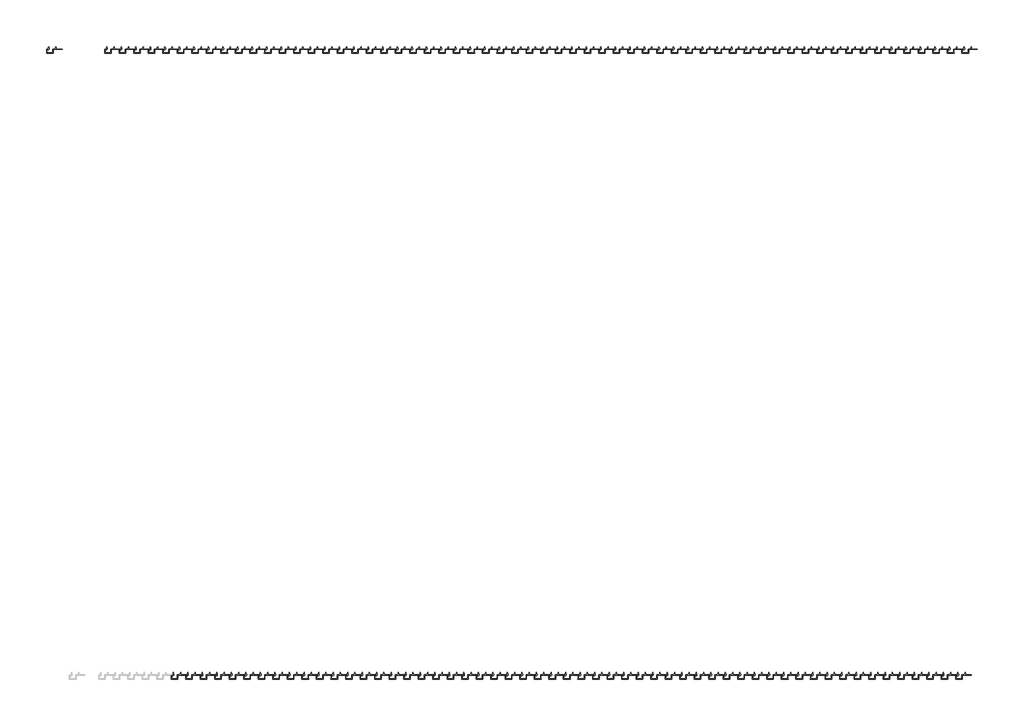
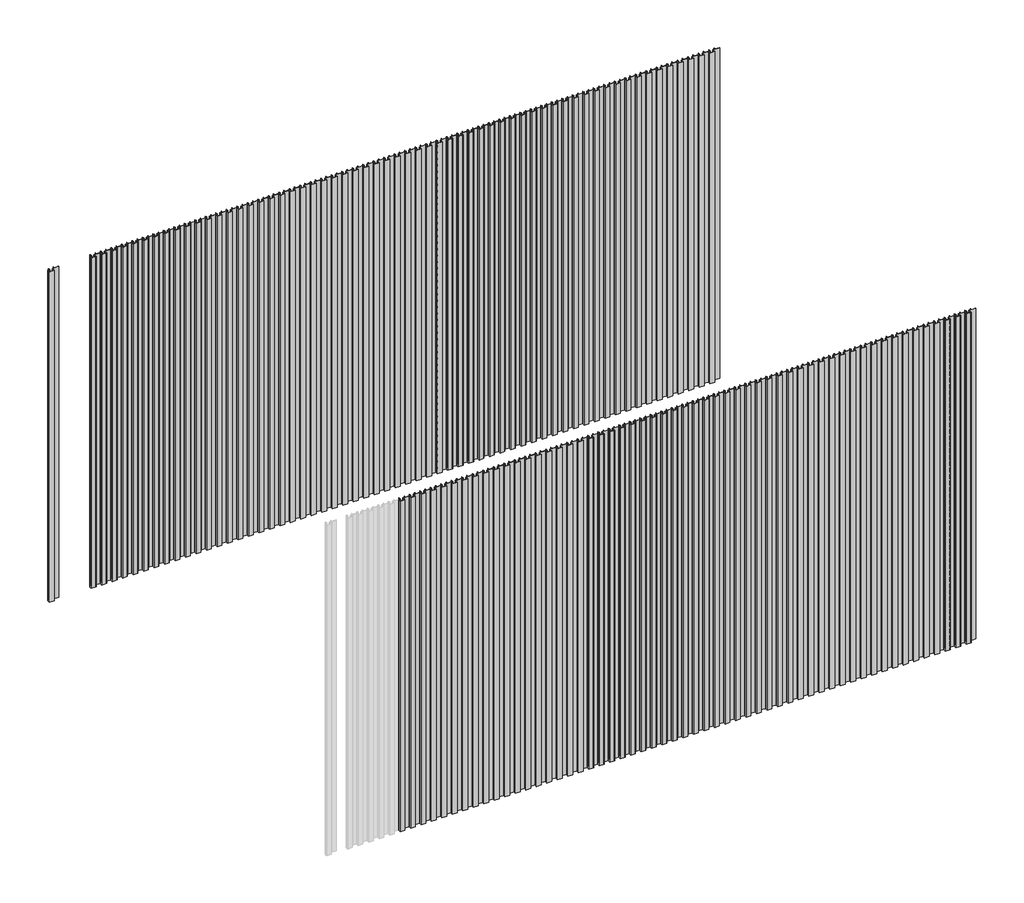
# One storey, part 2 of 2: 116 members.
"""IFC4 building model written with IfcOpenShell, lengths in millimetres."""

from ifc_helpers import new_model, si_unit, origin, place, context, project, spatial, transform, mapped, element, save
from components import rectangular_mullion_72b57f38, rectangular_mullion_807a867e

model = new_model("IFC4")

# Units and contexts
model_context = context("Model", 3, world=origin())
ifc_project = project(units=[si_unit("LENGTHUNIT", "METRE", prefix="MILLI")], contexts=[model_context])

# Site, building, storey
site = spatial("IfcSite", under=ifc_project)
building = spatial("IfcBuilding", under=site)
storey = spatial("IfcBuildingStorey", under=building, Name="REN - Top", Elevation=4000.0)

# Members
placement = place(None, origin())
rectangular_mullion_shape = rectangular_mullion_72b57f38(model_context)
element("IfcMember", 1, ObjectType="Rectangular Mullion : Renson_Linarte_LA-B16-01", at=placement, inside=storey, context=model_context, shape_type="MappedRepresentation", body=[
    mapped(rectangular_mullion_shape, transform((205796.9839545, 10018.9412859, 0.0), x_axis=(1.0, 0.0, 0.0), y_axis=(0.0, -1.0, 0.0), z_axis=(0.0, 0.0, -1.0))),
])
element("IfcMember", 2, ObjectType="Rectangular Mullion : Renson_Linarte_LA-B16-01", at=placement, inside=storey, context=model_context, shape_type="MappedRepresentation", body=[
    mapped(rectangular_mullion_shape, transform((205856.9839545, 10018.9412859, 0.0), x_axis=(1.0, 0.0, 0.0), y_axis=(0.0, -1.0, 0.0), z_axis=(0.0, 0.0, -1.0))),
])
element("IfcMember", 3, ObjectType="Rectangular Mullion : Renson_Linarte_LA-B16-01", at=placement, inside=storey, context=model_context, shape_type="MappedRepresentation", body=[
    mapped(rectangular_mullion_shape, transform((205916.9839545, 10018.9412859, 0.0), x_axis=(1.0, 0.0, 0.0), y_axis=(0.0, -1.0, 0.0), z_axis=(0.0, 0.0, -1.0))),
])
element("IfcMember", 4, ObjectType="Rectangular Mullion : Renson_Linarte_LA-B16-01", at=placement, inside=storey, context=model_context, shape_type="MappedRepresentation", body=[
    mapped(rectangular_mullion_shape, transform((205976.9839545, 10018.9412859, 0.0), x_axis=(1.0, 0.0, 0.0), y_axis=(0.0, -1.0, 0.0), z_axis=(0.0, 0.0, -1.0))),
])
element("IfcMember", 5, ObjectType="Rectangular Mullion : Renson_Linarte_LA-B16-01", at=placement, inside=storey, context=model_context, shape_type="MappedRepresentation", body=[
    mapped(rectangular_mullion_shape, transform((206036.9839545, 10018.9412859, 0.0), x_axis=(1.0, 0.0, 0.0), y_axis=(0.0, -1.0, 0.0), z_axis=(0.0, 0.0, -1.0))),
])
element("IfcMember", 6, ObjectType="Rectangular Mullion : Renson_Linarte_LA-B16-01", at=placement, inside=storey, context=model_context, shape_type="MappedRepresentation", body=[
    mapped(rectangular_mullion_shape, transform((206096.9839545, 10018.9412859, 0.0), x_axis=(1.0, 0.0, 0.0), y_axis=(0.0, -1.0, 0.0), z_axis=(0.0, 0.0, -1.0))),
])
element("IfcMember", 7, ObjectType="Rectangular Mullion : Renson_Linarte_LA-B16-01", at=placement, inside=storey, context=model_context, shape_type="MappedRepresentation", body=[
    mapped(rectangular_mullion_shape, transform((206156.9839545, 10018.9412859, 0.0), x_axis=(1.0, 0.0, 0.0), y_axis=(0.0, -1.0, 0.0), z_axis=(0.0, 0.0, -1.0))),
])
element("IfcMember", 8, ObjectType="Rectangular Mullion : Renson_Linarte_LA-B16-01", at=placement, inside=storey, context=model_context, shape_type="MappedRepresentation", body=[
    mapped(rectangular_mullion_shape, transform((206216.9839545, 10018.9412859, 0.0), x_axis=(1.0, 0.0, 0.0), y_axis=(0.0, -1.0, 0.0), z_axis=(0.0, 0.0, -1.0))),
])
element("IfcMember", 9, ObjectType="Rectangular Mullion : Renson_Linarte_LA-B16-01", at=placement, inside=storey, context=model_context, shape_type="MappedRepresentation", body=[
    mapped(rectangular_mullion_shape, transform((206276.9839545, 10018.9412859, 0.0), x_axis=(1.0, 0.0, 0.0), y_axis=(0.0, -1.0, 0.0), z_axis=(0.0, 0.0, -1.0))),
])
element("IfcMember", 10, ObjectType="Rectangular Mullion : Renson_Linarte_LA-B16-01", at=placement, inside=storey, context=model_context, shape_type="MappedRepresentation", body=[
    mapped(rectangular_mullion_shape, transform((206336.9839545, 10018.9412859, 0.0), x_axis=(1.0, 0.0, 0.0), y_axis=(0.0, -1.0, 0.0), z_axis=(0.0, 0.0, -1.0))),
])
element("IfcMember", 11, ObjectType="Rectangular Mullion : Renson_Linarte_LA-B16-01", at=placement, inside=storey, context=model_context, shape_type="MappedRepresentation", body=[
    mapped(rectangular_mullion_shape, transform((206396.9839545, 10018.9412859, 0.0), x_axis=(1.0, 0.0, 0.0), y_axis=(0.0, -1.0, 0.0), z_axis=(0.0, 0.0, -1.0))),
])
element("IfcMember", 12, ObjectType="Rectangular Mullion : Renson_Linarte_LA-B16-01", at=placement, inside=storey, context=model_context, shape_type="MappedRepresentation", body=[
    mapped(rectangular_mullion_shape, transform((206456.9839545, 10018.9412859, 0.0), x_axis=(1.0, 0.0, 0.0), y_axis=(0.0, -1.0, 0.0), z_axis=(0.0, 0.0, -1.0))),
])
element("IfcMember", 13, ObjectType="Rectangular Mullion : Renson_Linarte_LA-B16-01", at=placement, inside=storey, context=model_context, shape_type="MappedRepresentation", body=[
    mapped(rectangular_mullion_shape, transform((206516.9839545, 10018.9412859, 0.0), x_axis=(1.0, 0.0, 0.0), y_axis=(0.0, -1.0, 0.0), z_axis=(0.0, 0.0, -1.0))),
])
element("IfcMember", 14, ObjectType="Rectangular Mullion : Renson_Linarte_LA-B16-01", at=placement, inside=storey, context=model_context, shape_type="MappedRepresentation", body=[
    mapped(rectangular_mullion_shape, transform((206576.9839545, 10018.9412859, 0.0), x_axis=(1.0, 0.0, 0.0), y_axis=(0.0, -1.0, 0.0), z_axis=(0.0, 0.0, -1.0))),
])
element("IfcMember", 15, ObjectType="Rectangular Mullion : Renson_Linarte_LA-B16-01", at=placement, inside=storey, context=model_context, shape_type="MappedRepresentation", body=[
    mapped(rectangular_mullion_shape, transform((206636.9839545, 10018.9412859, 0.0), x_axis=(1.0, 0.0, 0.0), y_axis=(0.0, -1.0, 0.0), z_axis=(0.0, 0.0, -1.0))),
])
element("IfcMember", 16, ObjectType="Rectangular Mullion : Renson_Linarte_LA-B16-01", at=placement, inside=storey, context=model_context, shape_type="MappedRepresentation", body=[
    mapped(rectangular_mullion_shape, transform((206696.9839545, 10018.9412859, 0.0), x_axis=(1.0, 0.0, 0.0), y_axis=(0.0, -1.0, 0.0), z_axis=(0.0, 0.0, -1.0))),
])
element("IfcMember", 17, ObjectType="Rectangular Mullion : Renson_Linarte_LA-B16-01", at=placement, inside=storey, context=model_context, shape_type="MappedRepresentation", body=[
    mapped(rectangular_mullion_shape, transform((206756.9839545, 10018.9412859, 0.0), x_axis=(1.0, 0.0, 0.0), y_axis=(0.0, -1.0, 0.0), z_axis=(0.0, 0.0, -1.0))),
])
element("IfcMember", 18, ObjectType="Rectangular Mullion : Renson_Linarte_LA-B16-01", at=placement, inside=storey, context=model_context, shape_type="MappedRepresentation", body=[
    mapped(rectangular_mullion_shape, transform((206816.9839545, 10018.9412859, 0.0), x_axis=(1.0, 0.0, 0.0), y_axis=(0.0, -1.0, 0.0), z_axis=(0.0, 0.0, -1.0))),
])
element("IfcMember", 19, ObjectType="Rectangular Mullion : Renson_Linarte_LA-B16-01", at=placement, inside=storey, context=model_context, shape_type="MappedRepresentation", body=[
    mapped(rectangular_mullion_shape, transform((206876.9839545, 10018.9412859, 0.0), x_axis=(1.0, 0.0, 0.0), y_axis=(0.0, -1.0, 0.0), z_axis=(0.0, 0.0, -1.0))),
])
element("IfcMember", 20, ObjectType="Rectangular Mullion : Renson_Linarte_LA-B16-01", at=placement, inside=storey, context=model_context, shape_type="MappedRepresentation", body=[
    mapped(rectangular_mullion_shape, transform((206936.9839545, 10018.9412859, 0.0), x_axis=(1.0, 0.0, 0.0), y_axis=(0.0, -1.0, 0.0), z_axis=(0.0, 0.0, -1.0))),
])
element("IfcMember", 21, ObjectType="Rectangular Mullion : Renson_Linarte_LA-B16-01", at=placement, inside=storey, context=model_context, shape_type="MappedRepresentation", body=[
    mapped(rectangular_mullion_shape, transform((206996.9839545, 10018.9412859, 0.0), x_axis=(1.0, 0.0, 0.0), y_axis=(0.0, -1.0, 0.0), z_axis=(0.0, 0.0, -1.0))),
])
element("IfcMember", 22, ObjectType="Rectangular Mullion : Renson_Linarte_LA-B16-01", at=placement, inside=storey, context=model_context, shape_type="MappedRepresentation", body=[
    mapped(rectangular_mullion_shape, transform((207056.9839545, 10018.9412859, 0.0), x_axis=(1.0, 0.0, 0.0), y_axis=(0.0, -1.0, 0.0), z_axis=(0.0, 0.0, -1.0))),
])
element("IfcMember", 23, ObjectType="Rectangular Mullion : Renson_Linarte_LA-B16-01", at=placement, inside=storey, context=model_context, shape_type="MappedRepresentation", body=[
    mapped(rectangular_mullion_shape, transform((207116.9839545, 10018.9412859, 0.0), x_axis=(1.0, 0.0, 0.0), y_axis=(0.0, -1.0, 0.0), z_axis=(0.0, 0.0, -1.0))),
])
element("IfcMember", 24, ObjectType="Rectangular Mullion : Renson_Linarte_LA-B16-01", at=placement, inside=storey, context=model_context, shape_type="MappedRepresentation", body=[
    mapped(rectangular_mullion_shape, transform((207176.9839545, 10018.9412859, 0.0), x_axis=(1.0, 0.0, 0.0), y_axis=(0.0, -1.0, 0.0), z_axis=(0.0, 0.0, -1.0))),
])
element("IfcMember", 25, ObjectType="Rectangular Mullion : Renson_Linarte_LA-B16-01", at=placement, inside=storey, context=model_context, shape_type="MappedRepresentation", body=[
    mapped(rectangular_mullion_shape, transform((207236.9839545, 10018.9412859, 0.0), x_axis=(1.0, 0.0, 0.0), y_axis=(0.0, -1.0, 0.0), z_axis=(0.0, 0.0, -1.0))),
])
element("IfcMember", 26, ObjectType="Rectangular Mullion : Renson_Linarte_LA-B16-01", at=placement, inside=storey, context=model_context, shape_type="MappedRepresentation", body=[
    mapped(rectangular_mullion_shape, transform((207296.9839545, 10018.9412859, 0.0), x_axis=(1.0, 0.0, 0.0), y_axis=(0.0, -1.0, 0.0), z_axis=(0.0, 0.0, -1.0))),
])
element("IfcMember", 27, ObjectType="Rectangular Mullion : Renson_Linarte_LA-B16-01", at=placement, inside=storey, context=model_context, shape_type="MappedRepresentation", body=[
    mapped(rectangular_mullion_shape, transform((207356.9839545, 10018.9412859, 0.0), x_axis=(1.0, 0.0, 0.0), y_axis=(0.0, -1.0, 0.0), z_axis=(0.0, 0.0, -1.0))),
])
element("IfcMember", 28, ObjectType="Rectangular Mullion : Renson_Linarte_LA-B16-01", at=placement, inside=storey, context=model_context, shape_type="MappedRepresentation", body=[
    mapped(rectangular_mullion_shape, transform((207416.9839545, 10018.9412859, 0.0), x_axis=(1.0, 0.0, 0.0), y_axis=(0.0, -1.0, 0.0), z_axis=(0.0, 0.0, -1.0))),
])
element("IfcMember", 29, ObjectType="Rectangular Mullion : Renson_Linarte_LA-B16-01", at=placement, inside=storey, context=model_context, shape_type="MappedRepresentation", body=[
    mapped(rectangular_mullion_shape, transform((207476.9839545, 10018.9412859, 0.0), x_axis=(1.0, 0.0, 0.0), y_axis=(0.0, -1.0, 0.0), z_axis=(0.0, 0.0, -1.0))),
])
element("IfcMember", 30, ObjectType="Rectangular Mullion : Renson_Linarte_LA-B16-01", at=placement, inside=storey, context=model_context, shape_type="MappedRepresentation", body=[
    mapped(rectangular_mullion_shape, transform((207536.9839545, 10018.9412859, 0.0), x_axis=(1.0, 0.0, 0.0), y_axis=(0.0, -1.0, 0.0), z_axis=(0.0, 0.0, -1.0))),
])
element("IfcMember", 31, ObjectType="Rectangular Mullion : Renson_Linarte_LA-B16-01", at=placement, inside=storey, context=model_context, shape_type="MappedRepresentation", body=[
    mapped(rectangular_mullion_shape, transform((207596.9839545, 10018.9412859, 0.0), x_axis=(1.0, 0.0, 0.0), y_axis=(0.0, -1.0, 0.0), z_axis=(0.0, 0.0, -1.0))),
])
element("IfcMember", 32, ObjectType="Rectangular Mullion : Renson_Linarte_LA-B16-01", at=placement, inside=storey, context=model_context, shape_type="MappedRepresentation", body=[
    mapped(rectangular_mullion_shape, transform((207656.9839545, 10018.9412859, 0.0), x_axis=(1.0, 0.0, 0.0), y_axis=(0.0, -1.0, 0.0), z_axis=(0.0, 0.0, -1.0))),
])
element("IfcMember", 33, ObjectType="Rectangular Mullion : Renson_Linarte_LA-B16-01", at=placement, inside=storey, context=model_context, shape_type="MappedRepresentation", body=[
    mapped(rectangular_mullion_shape, transform((207716.9839545, 10018.9412859, 0.0), x_axis=(1.0, 0.0, 0.0), y_axis=(0.0, -1.0, 0.0), z_axis=(0.0, 0.0, -1.0))),
])
element("IfcMember", 34, ObjectType="Rectangular Mullion : Renson_Linarte_LA-B16-01", at=placement, inside=storey, context=model_context, shape_type="MappedRepresentation", body=[
    mapped(rectangular_mullion_shape, transform((207776.9839545, 10018.9412859, 0.0), x_axis=(1.0, 0.0, 0.0), y_axis=(0.0, -1.0, 0.0), z_axis=(0.0, 0.0, -1.0))),
])
element("IfcMember", 35, ObjectType="Rectangular Mullion : Renson_Linarte_LA-B16-01", at=placement, inside=storey, context=model_context, shape_type="MappedRepresentation", body=[
    mapped(rectangular_mullion_shape, transform((207836.9839545, 10018.9412859, 0.0), x_axis=(1.0, 0.0, 0.0), y_axis=(0.0, -1.0, 0.0), z_axis=(0.0, 0.0, -1.0))),
])
element("IfcMember", 36, ObjectType="Rectangular Mullion : Renson_Linarte_LA-B16-01", at=placement, inside=storey, context=model_context, shape_type="MappedRepresentation", body=[
    mapped(rectangular_mullion_shape, transform((207896.9839545, 10018.9412859, 0.0), x_axis=(1.0, 0.0, 0.0), y_axis=(0.0, -1.0, 0.0), z_axis=(0.0, 0.0, -1.0))),
])
element("IfcMember", 37, ObjectType="Rectangular Mullion : Renson_Linarte_LA-B16-01", at=placement, inside=storey, context=model_context, shape_type="MappedRepresentation", body=[
    mapped(rectangular_mullion_shape, transform((207956.9839545, 10018.9412859, 0.0), x_axis=(1.0, 0.0, 0.0), y_axis=(0.0, -1.0, 0.0), z_axis=(0.0, 0.0, -1.0))),
])
element("IfcMember", 38, ObjectType="Rectangular Mullion : Renson_Linarte_LA-B16-01", at=placement, inside=storey, context=model_context, shape_type="MappedRepresentation", body=[
    mapped(rectangular_mullion_shape, transform((208016.9839545, 10018.9412859, 0.0), x_axis=(1.0, 0.0, 0.0), y_axis=(0.0, -1.0, 0.0), z_axis=(0.0, 0.0, -1.0))),
])
element("IfcMember", 39, ObjectType="Rectangular Mullion : Renson_Linarte_LA-B16-01", at=placement, inside=storey, context=model_context, shape_type="MappedRepresentation", body=[
    mapped(rectangular_mullion_shape, transform((208076.9839545, 10018.9412859, 0.0), x_axis=(1.0, 0.0, 0.0), y_axis=(0.0, -1.0, 0.0), z_axis=(0.0, 0.0, -1.0))),
])
element("IfcMember", 40, ObjectType="Rectangular Mullion : Renson_Linarte_LA-B16-01", at=placement, inside=storey, context=model_context, shape_type="MappedRepresentation", body=[
    mapped(rectangular_mullion_shape, transform((208136.9839545, 10018.9412859, 0.0), x_axis=(1.0, 0.0, 0.0), y_axis=(0.0, -1.0, 0.0), z_axis=(0.0, 0.0, -1.0))),
])
element("IfcMember", 41, ObjectType="Rectangular Mullion : Renson_Linarte_LA-B16-01", at=placement, inside=storey, context=model_context, shape_type="MappedRepresentation", body=[
    mapped(rectangular_mullion_shape, transform((208196.9839545, 10018.9412859, 0.0), x_axis=(1.0, 0.0, 0.0), y_axis=(0.0, -1.0, 0.0), z_axis=(0.0, 0.0, -1.0))),
])
element("IfcMember", 42, ObjectType="Rectangular Mullion : Renson_Linarte_LA-B16-01", at=placement, inside=storey, context=model_context, shape_type="MappedRepresentation", body=[
    mapped(rectangular_mullion_shape, transform((208256.9839545, 10018.9412859, 0.0), x_axis=(1.0, 0.0, 0.0), y_axis=(0.0, -1.0, 0.0), z_axis=(0.0, 0.0, -1.0))),
])
element("IfcMember", 43, ObjectType="Rectangular Mullion : Renson_Linarte_LA-B16-01", at=placement, inside=storey, context=model_context, shape_type="MappedRepresentation", body=[
    mapped(rectangular_mullion_shape, transform((208316.9839545, 10018.9412859, 0.0), x_axis=(1.0, 0.0, 0.0), y_axis=(0.0, -1.0, 0.0), z_axis=(0.0, 0.0, -1.0))),
])
element("IfcMember", 44, ObjectType="Rectangular Mullion : Renson_Linarte_LA-B16-01", at=placement, inside=storey, context=model_context, shape_type="MappedRepresentation", body=[
    mapped(rectangular_mullion_shape, transform((208376.9839545, 10018.9412859, 0.0), x_axis=(1.0, 0.0, 0.0), y_axis=(0.0, -1.0, 0.0), z_axis=(0.0, 0.0, -1.0))),
])
element("IfcMember", 45, ObjectType="Rectangular Mullion : Renson_Linarte_LA-B16-01", at=placement, inside=storey, context=model_context, shape_type="MappedRepresentation", body=[
    mapped(rectangular_mullion_shape, transform((208436.9839545, 10018.9412859, 0.0), x_axis=(1.0, 0.0, 0.0), y_axis=(0.0, -1.0, 0.0), z_axis=(0.0, 0.0, -1.0))),
])
element("IfcMember", 46, ObjectType="Rectangular Mullion : Renson_Linarte_LA-B16-01", at=placement, inside=storey, context=model_context, shape_type="MappedRepresentation", body=[
    mapped(rectangular_mullion_shape, transform((208496.9839545, 10018.9412859, 0.0), x_axis=(1.0, 0.0, 0.0), y_axis=(0.0, -1.0, 0.0), z_axis=(0.0, 0.0, -1.0))),
])
element("IfcMember", 47, ObjectType="Rectangular Mullion : Renson_Linarte_LA-B16-01", at=placement, inside=storey, context=model_context, shape_type="MappedRepresentation", body=[
    mapped(rectangular_mullion_shape, transform((208556.9839545, 10018.9412859, 0.0), x_axis=(1.0, 0.0, 0.0), y_axis=(0.0, -1.0, 0.0), z_axis=(0.0, 0.0, -1.0))),
])
element("IfcMember", 48, ObjectType="Rectangular Mullion : Renson_Linarte_LA-B16-01", at=placement, inside=storey, context=model_context, shape_type="MappedRepresentation", body=[
    mapped(rectangular_mullion_shape, transform((208616.9839545, 10018.9412859, 0.0), x_axis=(1.0, 0.0, 0.0), y_axis=(0.0, -1.0, 0.0), z_axis=(0.0, 0.0, -1.0))),
])
element("IfcMember", 49, ObjectType="Rectangular Mullion : Renson_Linarte_LA-B16-01", at=placement, inside=storey, context=model_context, shape_type="MappedRepresentation", body=[
    mapped(rectangular_mullion_shape, transform((208676.9839545, 10018.9412859, 0.0), x_axis=(1.0, 0.0, 0.0), y_axis=(0.0, -1.0, 0.0), z_axis=(0.0, 0.0, -1.0))),
])
element("IfcMember", 50, ObjectType="Rectangular Mullion : Renson_Linarte_LA-B16-01", at=placement, inside=storey, context=model_context, shape_type="MappedRepresentation", body=[
    mapped(rectangular_mullion_shape, transform((208736.9839545, 10018.9412859, 0.0), x_axis=(1.0, 0.0, 0.0), y_axis=(0.0, -1.0, 0.0), z_axis=(0.0, 0.0, -1.0))),
])
element("IfcMember", 51, ObjectType="Rectangular Mullion : Renson_Linarte_LA-B16-01", at=placement, inside=storey, context=model_context, shape_type="MappedRepresentation", body=[
    mapped(rectangular_mullion_shape, transform((208796.9839545, 10018.9412859, 0.0), x_axis=(1.0, 0.0, 0.0), y_axis=(0.0, -1.0, 0.0), z_axis=(0.0, 0.0, -1.0))),
])
element("IfcMember", 52, ObjectType="Rectangular Mullion : Renson_Linarte_LA-B16-01", at=placement, inside=storey, context=model_context, shape_type="MappedRepresentation", body=[
    mapped(rectangular_mullion_shape, transform((208856.9839545, 10018.9412859, 0.0), x_axis=(1.0, 0.0, 0.0), y_axis=(0.0, -1.0, 0.0), z_axis=(0.0, 0.0, -1.0))),
])
element("IfcMember", 53, ObjectType="Rectangular Mullion : Renson_Linarte_LA-B16-01", at=placement, inside=storey, context=model_context, shape_type="MappedRepresentation", body=[
    mapped(rectangular_mullion_shape, transform((208916.9839545, 10018.9412859, 0.0), x_axis=(1.0, 0.0, 0.0), y_axis=(0.0, -1.0, 0.0), z_axis=(0.0, 0.0, -1.0))),
])
element("IfcMember", 54, ObjectType="Rectangular Mullion : Renson_Linarte_LA-B16-01", at=placement, inside=storey, context=model_context, shape_type="MappedRepresentation", body=[
    mapped(rectangular_mullion_shape, transform((208976.9839545, 10018.9412859, 0.0), x_axis=(1.0, 0.0, 0.0), y_axis=(0.0, -1.0, 0.0), z_axis=(0.0, 0.0, -1.0))),
])
element("IfcMember", 55, ObjectType="Rectangular Mullion : Renson_Linarte_LA-B16-01", at=placement, inside=storey, context=model_context, shape_type="MappedRepresentation", body=[
    mapped(rectangular_mullion_shape, transform((209036.9839545, 10018.9412859, 0.0), x_axis=(1.0, 0.0, 0.0), y_axis=(0.0, -1.0, 0.0), z_axis=(0.0, 0.0, -1.0))),
])
element("IfcMember", 56, ObjectType="Rectangular Mullion : Renson_Linarte_LA-B16-01", at=placement, inside=storey, context=model_context, shape_type="MappedRepresentation", body=[
    mapped(rectangular_mullion_shape, transform((205522.4238388, 12603.7325968, 0.0), x_axis=(1.0, 0.0, 0.0), y_axis=(0.0, -1.0, 0.0), z_axis=(0.0, 0.0, -1.0))),
])
element("IfcMember", 57, ObjectType="Rectangular Mullion : Renson_Linarte_LA-B16-01", at=placement, inside=storey, context=model_context, shape_type="MappedRepresentation", body=[
    mapped(rectangular_mullion_shape, transform((205582.4238388, 12603.7325968, 0.0), x_axis=(1.0, 0.0, 0.0), y_axis=(0.0, -1.0, 0.0), z_axis=(0.0, 0.0, -1.0))),
])
element("IfcMember", 58, ObjectType="Rectangular Mullion : Renson_Linarte_LA-B16-01", at=placement, inside=storey, context=model_context, shape_type="MappedRepresentation", body=[
    mapped(rectangular_mullion_shape, transform((205642.4238388, 12603.7325968, 0.0), x_axis=(1.0, 0.0, 0.0), y_axis=(0.0, -1.0, 0.0), z_axis=(0.0, 0.0, -1.0))),
])
element("IfcMember", 59, ObjectType="Rectangular Mullion : Renson_Linarte_LA-B16-01", at=placement, inside=storey, context=model_context, shape_type="MappedRepresentation", body=[
    mapped(rectangular_mullion_shape, transform((205702.4238388, 12603.7325968, 0.0), x_axis=(1.0, 0.0, 0.0), y_axis=(0.0, -1.0, 0.0), z_axis=(0.0, 0.0, -1.0))),
])
element("IfcMember", 60, ObjectType="Rectangular Mullion : Renson_Linarte_LA-B16-01", at=placement, inside=storey, context=model_context, shape_type="MappedRepresentation", body=[
    mapped(rectangular_mullion_shape, transform((205762.4238388, 12603.7325968, 0.0), x_axis=(1.0, 0.0, 0.0), y_axis=(0.0, -1.0, 0.0), z_axis=(0.0, 0.0, -1.0))),
])
element("IfcMember", 61, ObjectType="Rectangular Mullion : Renson_Linarte_LA-B16-01", at=placement, inside=storey, context=model_context, shape_type="MappedRepresentation", body=[
    mapped(rectangular_mullion_shape, transform((205822.4238388, 12603.7325968, 0.0), x_axis=(1.0, 0.0, 0.0), y_axis=(0.0, -1.0, 0.0), z_axis=(0.0, 0.0, -1.0))),
])
element("IfcMember", 62, ObjectType="Rectangular Mullion : Renson_Linarte_LA-B16-01", at=placement, inside=storey, context=model_context, shape_type="MappedRepresentation", body=[
    mapped(rectangular_mullion_shape, transform((205882.4238388, 12603.7325968, 0.0), x_axis=(1.0, 0.0, 0.0), y_axis=(0.0, -1.0, 0.0), z_axis=(0.0, 0.0, -1.0))),
])
element("IfcMember", 63, ObjectType="Rectangular Mullion : Renson_Linarte_LA-B16-01", at=placement, inside=storey, context=model_context, shape_type="MappedRepresentation", body=[
    mapped(rectangular_mullion_shape, transform((205942.4238388, 12603.7325968, 0.0), x_axis=(1.0, 0.0, 0.0), y_axis=(0.0, -1.0, 0.0), z_axis=(0.0, 0.0, -1.0))),
])
element("IfcMember", 64, ObjectType="Rectangular Mullion : Renson_Linarte_LA-B16-01", at=placement, inside=storey, context=model_context, shape_type="MappedRepresentation", body=[
    mapped(rectangular_mullion_shape, transform((206002.4238388, 12603.7325968, 0.0), x_axis=(1.0, 0.0, 0.0), y_axis=(0.0, -1.0, 0.0), z_axis=(0.0, 0.0, -1.0))),
])
element("IfcMember", 65, ObjectType="Rectangular Mullion : Renson_Linarte_LA-B16-01", at=placement, inside=storey, context=model_context, shape_type="MappedRepresentation", body=[
    mapped(rectangular_mullion_shape, transform((206062.4238388, 12603.7325968, 0.0), x_axis=(1.0, 0.0, 0.0), y_axis=(0.0, -1.0, 0.0), z_axis=(0.0, 0.0, -1.0))),
])
element("IfcMember", 66, ObjectType="Rectangular Mullion : Renson_Linarte_LA-B16-01", at=placement, inside=storey, context=model_context, shape_type="MappedRepresentation", body=[
    mapped(rectangular_mullion_shape, transform((206122.4238388, 12603.7325968, 0.0), x_axis=(1.0, 0.0, 0.0), y_axis=(0.0, -1.0, 0.0), z_axis=(0.0, 0.0, -1.0))),
])
element("IfcMember", 67, ObjectType="Rectangular Mullion : Renson_Linarte_LA-B16-01", at=placement, inside=storey, context=model_context, shape_type="MappedRepresentation", body=[
    mapped(rectangular_mullion_shape, transform((206182.4238388, 12603.7325968, 0.0), x_axis=(1.0, 0.0, 0.0), y_axis=(0.0, -1.0, 0.0), z_axis=(0.0, 0.0, -1.0))),
])
element("IfcMember", 68, ObjectType="Rectangular Mullion : Renson_Linarte_LA-B16-01", at=placement, inside=storey, context=model_context, shape_type="MappedRepresentation", body=[
    mapped(rectangular_mullion_shape, transform((206242.4238388, 12603.7325968, 0.0), x_axis=(1.0, 0.0, 0.0), y_axis=(0.0, -1.0, 0.0), z_axis=(0.0, 0.0, -1.0))),
])
element("IfcMember", 69, ObjectType="Rectangular Mullion : Renson_Linarte_LA-B16-01", at=placement, inside=storey, context=model_context, shape_type="MappedRepresentation", body=[
    mapped(rectangular_mullion_shape, transform((206302.4238388, 12603.7325968, 0.0), x_axis=(1.0, 0.0, 0.0), y_axis=(0.0, -1.0, 0.0), z_axis=(0.0, 0.0, -1.0))),
])
element("IfcMember", 70, ObjectType="Rectangular Mullion : Renson_Linarte_LA-B16-01", at=placement, inside=storey, context=model_context, shape_type="MappedRepresentation", body=[
    mapped(rectangular_mullion_shape, transform((206362.4238388, 12603.7325968, 0.0), x_axis=(1.0, 0.0, 0.0), y_axis=(0.0, -1.0, 0.0), z_axis=(0.0, 0.0, -1.0))),
])
element("IfcMember", 71, ObjectType="Rectangular Mullion : Renson_Linarte_LA-B16-01", at=placement, inside=storey, context=model_context, shape_type="MappedRepresentation", body=[
    mapped(rectangular_mullion_shape, transform((206422.4238388, 12603.7325968, 0.0), x_axis=(1.0, 0.0, 0.0), y_axis=(0.0, -1.0, 0.0), z_axis=(0.0, 0.0, -1.0))),
])
element("IfcMember", 72, ObjectType="Rectangular Mullion : Renson_Linarte_LA-B16-01", at=placement, inside=storey, context=model_context, shape_type="MappedRepresentation", body=[
    mapped(rectangular_mullion_shape, transform((206482.4238388, 12603.7325968, 0.0), x_axis=(1.0, 0.0, 0.0), y_axis=(0.0, -1.0, 0.0), z_axis=(0.0, 0.0, -1.0))),
])
element("IfcMember", 73, ObjectType="Rectangular Mullion : Renson_Linarte_LA-B16-01", at=placement, inside=storey, context=model_context, shape_type="MappedRepresentation", body=[
    mapped(rectangular_mullion_shape, transform((206542.4238388, 12603.7325968, 0.0), x_axis=(1.0, 0.0, 0.0), y_axis=(0.0, -1.0, 0.0), z_axis=(0.0, 0.0, -1.0))),
])
element("IfcMember", 74, ObjectType="Rectangular Mullion : Renson_Linarte_LA-B16-01", at=placement, inside=storey, context=model_context, shape_type="MappedRepresentation", body=[
    mapped(rectangular_mullion_shape, transform((206602.4238388, 12603.7325968, 0.0), x_axis=(1.0, 0.0, 0.0), y_axis=(0.0, -1.0, 0.0), z_axis=(0.0, 0.0, -1.0))),
])
element("IfcMember", 75, ObjectType="Rectangular Mullion : Renson_Linarte_LA-B16-01", at=placement, inside=storey, context=model_context, shape_type="MappedRepresentation", body=[
    mapped(rectangular_mullion_shape, transform((206662.4238388, 12603.7325968, 0.0), x_axis=(1.0, 0.0, 0.0), y_axis=(0.0, -1.0, 0.0), z_axis=(0.0, 0.0, -1.0))),
])
element("IfcMember", 76, ObjectType="Rectangular Mullion : Renson_Linarte_LA-B16-01", at=placement, inside=storey, context=model_context, shape_type="MappedRepresentation", body=[
    mapped(rectangular_mullion_shape, transform((206722.4238388, 12603.7325968, 0.0), x_axis=(1.0, 0.0, 0.0), y_axis=(0.0, -1.0, 0.0), z_axis=(0.0, 0.0, -1.0))),
])
element("IfcMember", 77, ObjectType="Rectangular Mullion : Renson_Linarte_LA-B16-01", at=placement, inside=storey, context=model_context, shape_type="MappedRepresentation", body=[
    mapped(rectangular_mullion_shape, transform((206782.4238388, 12603.7325968, 0.0), x_axis=(1.0, 0.0, 0.0), y_axis=(0.0, -1.0, 0.0), z_axis=(0.0, 0.0, -1.0))),
])
element("IfcMember", 78, ObjectType="Rectangular Mullion : Renson_Linarte_LA-B16-01", at=placement, inside=storey, context=model_context, shape_type="MappedRepresentation", body=[
    mapped(rectangular_mullion_shape, transform((206842.4238388, 12603.7325968, 0.0), x_axis=(1.0, 0.0, 0.0), y_axis=(0.0, -1.0, 0.0), z_axis=(0.0, 0.0, -1.0))),
])
element("IfcMember", 79, ObjectType="Rectangular Mullion : Renson_Linarte_LA-B16-01", at=placement, inside=storey, context=model_context, shape_type="MappedRepresentation", body=[
    mapped(rectangular_mullion_shape, transform((206902.4238388, 12603.7325968, 0.0), x_axis=(1.0, 0.0, 0.0), y_axis=(0.0, -1.0, 0.0), z_axis=(0.0, 0.0, -1.0))),
])
element("IfcMember", 80, ObjectType="Rectangular Mullion : Renson_Linarte_LA-B16-01", at=placement, inside=storey, context=model_context, shape_type="MappedRepresentation", body=[
    mapped(rectangular_mullion_shape, transform((206962.4238388, 12603.7325968, 0.0), x_axis=(1.0, 0.0, 0.0), y_axis=(0.0, -1.0, 0.0), z_axis=(0.0, 0.0, -1.0))),
])
element("IfcMember", 81, ObjectType="Rectangular Mullion : Renson_Linarte_LA-B16-01", at=placement, inside=storey, context=model_context, shape_type="MappedRepresentation", body=[
    mapped(rectangular_mullion_shape, transform((207022.4238388, 12603.7325968, 0.0), x_axis=(1.0, 0.0, 0.0), y_axis=(0.0, -1.0, 0.0), z_axis=(0.0, 0.0, -1.0))),
])
element("IfcMember", 82, ObjectType="Rectangular Mullion : Renson_Linarte_LA-B16-01", at=placement, inside=storey, context=model_context, shape_type="MappedRepresentation", body=[
    mapped(rectangular_mullion_shape, transform((207082.4238388, 12603.7325968, 0.0), x_axis=(1.0, 0.0, 0.0), y_axis=(0.0, -1.0, 0.0), z_axis=(0.0, 0.0, -1.0))),
])
element("IfcMember", 83, ObjectType="Rectangular Mullion : Renson_Linarte_LA-B16-01", at=placement, inside=storey, context=model_context, shape_type="MappedRepresentation", body=[
    mapped(rectangular_mullion_shape, transform((207142.4238388, 12603.7325968, 0.0), x_axis=(1.0, 0.0, 0.0), y_axis=(0.0, -1.0, 0.0), z_axis=(0.0, 0.0, -1.0))),
])
element("IfcMember", 84, ObjectType="Rectangular Mullion : Renson_Linarte_LA-B16-01", at=placement, inside=storey, context=model_context, shape_type="MappedRepresentation", body=[
    mapped(rectangular_mullion_shape, transform((207202.4238388, 12603.7325968, 0.0), x_axis=(1.0, 0.0, 0.0), y_axis=(0.0, -1.0, 0.0), z_axis=(0.0, 0.0, -1.0))),
])
element("IfcMember", 85, ObjectType="Rectangular Mullion : Renson_Linarte_LA-B16-01", at=placement, inside=storey, context=model_context, shape_type="MappedRepresentation", body=[
    mapped(rectangular_mullion_shape, transform((207262.4238388, 12603.7325968, 0.0), x_axis=(1.0, 0.0, 0.0), y_axis=(0.0, -1.0, 0.0), z_axis=(0.0, 0.0, -1.0))),
])
element("IfcMember", 86, ObjectType="Rectangular Mullion : Renson_Linarte_LA-B16-01", at=placement, inside=storey, context=model_context, shape_type="MappedRepresentation", body=[
    mapped(rectangular_mullion_shape, transform((207322.4238388, 12603.7325968, 0.0), x_axis=(1.0, 0.0, 0.0), y_axis=(0.0, -1.0, 0.0), z_axis=(0.0, 0.0, -1.0))),
])
element("IfcMember", 87, ObjectType="Rectangular Mullion : Renson_Linarte_LA-B16-01", at=placement, inside=storey, context=model_context, shape_type="MappedRepresentation", body=[
    mapped(rectangular_mullion_shape, transform((207382.4238388, 12603.7325968, 0.0), x_axis=(1.0, 0.0, 0.0), y_axis=(0.0, -1.0, 0.0), z_axis=(0.0, 0.0, -1.0))),
])
element("IfcMember", 88, ObjectType="Rectangular Mullion : Renson_Linarte_LA-B16-01", at=placement, inside=storey, context=model_context, shape_type="MappedRepresentation", body=[
    mapped(rectangular_mullion_shape, transform((207442.4238388, 12603.7325968, 0.0), x_axis=(1.0, 0.0, 0.0), y_axis=(0.0, -1.0, 0.0), z_axis=(0.0, 0.0, -1.0))),
])
element("IfcMember", 89, ObjectType="Rectangular Mullion : Renson_Linarte_LA-B16-01", at=placement, inside=storey, context=model_context, shape_type="MappedRepresentation", body=[
    mapped(rectangular_mullion_shape, transform((207502.4238388, 12603.7325968, 0.0), x_axis=(1.0, 0.0, 0.0), y_axis=(0.0, -1.0, 0.0), z_axis=(0.0, 0.0, -1.0))),
])
element("IfcMember", 90, ObjectType="Rectangular Mullion : Renson_Linarte_LA-B16-01", at=placement, inside=storey, context=model_context, shape_type="MappedRepresentation", body=[
    mapped(rectangular_mullion_shape, transform((207562.4238388, 12603.7325968, 0.0), x_axis=(1.0, 0.0, 0.0), y_axis=(0.0, -1.0, 0.0), z_axis=(0.0, 0.0, -1.0))),
])
element("IfcMember", 91, ObjectType="Rectangular Mullion : Renson_Linarte_LA-B16-01", at=placement, inside=storey, context=model_context, shape_type="MappedRepresentation", body=[
    mapped(rectangular_mullion_shape, transform((207622.4238388, 12603.7325968, 0.0), x_axis=(1.0, 0.0, 0.0), y_axis=(0.0, -1.0, 0.0), z_axis=(0.0, 0.0, -1.0))),
])
element("IfcMember", 92, ObjectType="Rectangular Mullion : Renson_Linarte_LA-B16-01", at=placement, inside=storey, context=model_context, shape_type="MappedRepresentation", body=[
    mapped(rectangular_mullion_shape, transform((207682.4238388, 12603.7325968, 0.0), x_axis=(1.0, 0.0, 0.0), y_axis=(0.0, -1.0, 0.0), z_axis=(0.0, 0.0, -1.0))),
])
element("IfcMember", 93, ObjectType="Rectangular Mullion : Renson_Linarte_LA-B16-01", at=placement, inside=storey, context=model_context, shape_type="MappedRepresentation", body=[
    mapped(rectangular_mullion_shape, transform((207742.4238388, 12603.7325968, 0.0), x_axis=(1.0, 0.0, 0.0), y_axis=(0.0, -1.0, 0.0), z_axis=(0.0, 0.0, -1.0))),
])
element("IfcMember", 94, ObjectType="Rectangular Mullion : Renson_Linarte_LA-B16-01", at=placement, inside=storey, context=model_context, shape_type="MappedRepresentation", body=[
    mapped(rectangular_mullion_shape, transform((207802.4238388, 12603.7325968, 0.0), x_axis=(1.0, 0.0, 0.0), y_axis=(0.0, -1.0, 0.0), z_axis=(0.0, 0.0, -1.0))),
])
element("IfcMember", 95, ObjectType="Rectangular Mullion : Renson_Linarte_LA-B16-01", at=placement, inside=storey, context=model_context, shape_type="MappedRepresentation", body=[
    mapped(rectangular_mullion_shape, transform((207862.4238388, 12603.7325968, 0.0), x_axis=(1.0, 0.0, 0.0), y_axis=(0.0, -1.0, 0.0), z_axis=(0.0, 0.0, -1.0))),
])
element("IfcMember", 96, ObjectType="Rectangular Mullion : Renson_Linarte_LA-B16-01", at=placement, inside=storey, context=model_context, shape_type="MappedRepresentation", body=[
    mapped(rectangular_mullion_shape, transform((207922.4238388, 12603.7325968, 0.0), x_axis=(1.0, 0.0, 0.0), y_axis=(0.0, -1.0, 0.0), z_axis=(0.0, 0.0, -1.0))),
])
element("IfcMember", 97, ObjectType="Rectangular Mullion : Renson_Linarte_LA-B16-01", at=placement, inside=storey, context=model_context, shape_type="MappedRepresentation", body=[
    mapped(rectangular_mullion_shape, transform((207982.4238388, 12603.7325968, 0.0), x_axis=(1.0, 0.0, 0.0), y_axis=(0.0, -1.0, 0.0), z_axis=(0.0, 0.0, -1.0))),
])
element("IfcMember", 98, ObjectType="Rectangular Mullion : Renson_Linarte_LA-B16-01", at=placement, inside=storey, context=model_context, shape_type="MappedRepresentation", body=[
    mapped(rectangular_mullion_shape, transform((208042.4238388, 12603.7325968, 0.0), x_axis=(1.0, 0.0, 0.0), y_axis=(0.0, -1.0, 0.0), z_axis=(0.0, 0.0, -1.0))),
])
element("IfcMember", 99, ObjectType="Rectangular Mullion : Renson_Linarte_LA-B16-01", at=placement, inside=storey, context=model_context, shape_type="MappedRepresentation", body=[
    mapped(rectangular_mullion_shape, transform((208102.4238388, 12603.7325968, 0.0), x_axis=(1.0, 0.0, 0.0), y_axis=(0.0, -1.0, 0.0), z_axis=(0.0, 0.0, -1.0))),
])
element("IfcMember", 100, ObjectType="Rectangular Mullion : Renson_Linarte_LA-B16-01", at=placement, inside=storey, context=model_context, shape_type="MappedRepresentation", body=[
    mapped(rectangular_mullion_shape, transform((208162.4238388, 12603.7325968, 0.0), x_axis=(1.0, 0.0, 0.0), y_axis=(0.0, -1.0, 0.0), z_axis=(0.0, 0.0, -1.0))),
])
element("IfcMember", 101, ObjectType="Rectangular Mullion : Renson_Linarte_LA-B16-01", at=placement, inside=storey, context=model_context, shape_type="MappedRepresentation", body=[
    mapped(rectangular_mullion_shape, transform((208222.4238388, 12603.7325968, 0.0), x_axis=(1.0, 0.0, 0.0), y_axis=(0.0, -1.0, 0.0), z_axis=(0.0, 0.0, -1.0))),
])
element("IfcMember", 102, ObjectType="Rectangular Mullion : Renson_Linarte_LA-B16-01", at=placement, inside=storey, context=model_context, shape_type="MappedRepresentation", body=[
    mapped(rectangular_mullion_shape, transform((208282.4238388, 12603.7325968, 0.0), x_axis=(1.0, 0.0, 0.0), y_axis=(0.0, -1.0, 0.0), z_axis=(0.0, 0.0, -1.0))),
])
element("IfcMember", 103, ObjectType="Rectangular Mullion : Renson_Linarte_LA-B16-01", at=placement, inside=storey, context=model_context, shape_type="MappedRepresentation", body=[
    mapped(rectangular_mullion_shape, transform((208342.4238388, 12603.7325968, 0.0), x_axis=(1.0, 0.0, 0.0), y_axis=(0.0, -1.0, 0.0), z_axis=(0.0, 0.0, -1.0))),
])
element("IfcMember", 104, ObjectType="Rectangular Mullion : Renson_Linarte_LA-B16-01", at=placement, inside=storey, context=model_context, shape_type="MappedRepresentation", body=[
    mapped(rectangular_mullion_shape, transform((208402.4238388, 12603.7325968, 0.0), x_axis=(1.0, 0.0, 0.0), y_axis=(0.0, -1.0, 0.0), z_axis=(0.0, 0.0, -1.0))),
])
element("IfcMember", 105, ObjectType="Rectangular Mullion : Renson_Linarte_LA-B16-01", at=placement, inside=storey, context=model_context, shape_type="MappedRepresentation", body=[
    mapped(rectangular_mullion_shape, transform((208462.4238388, 12603.7325968, 0.0), x_axis=(1.0, 0.0, 0.0), y_axis=(0.0, -1.0, 0.0), z_axis=(0.0, 0.0, -1.0))),
])
element("IfcMember", 106, ObjectType="Rectangular Mullion : Renson_Linarte_LA-B16-01", at=placement, inside=storey, context=model_context, shape_type="MappedRepresentation", body=[
    mapped(rectangular_mullion_shape, transform((208522.4238388, 12603.7325968, 0.0), x_axis=(1.0, 0.0, 0.0), y_axis=(0.0, -1.0, 0.0), z_axis=(0.0, 0.0, -1.0))),
])
element("IfcMember", 107, ObjectType="Rectangular Mullion : Renson_Linarte_LA-B16-01", at=placement, inside=storey, context=model_context, shape_type="MappedRepresentation", body=[
    mapped(rectangular_mullion_shape, transform((208582.4238388, 12603.7325968, 0.0), x_axis=(1.0, 0.0, 0.0), y_axis=(0.0, -1.0, 0.0), z_axis=(0.0, 0.0, -1.0))),
])
element("IfcMember", 108, ObjectType="Rectangular Mullion : Renson_Linarte_LA-B16-01", at=placement, inside=storey, context=model_context, shape_type="MappedRepresentation", body=[
    mapped(rectangular_mullion_shape, transform((208642.4238388, 12603.7325968, 0.0), x_axis=(1.0, 0.0, 0.0), y_axis=(0.0, -1.0, 0.0), z_axis=(0.0, 0.0, -1.0))),
])
element("IfcMember", 109, ObjectType="Rectangular Mullion : Renson_Linarte_LA-B16-01", at=placement, inside=storey, context=model_context, shape_type="MappedRepresentation", body=[
    mapped(rectangular_mullion_shape, transform((208702.4238388, 12603.7325968, 0.0), x_axis=(1.0, 0.0, 0.0), y_axis=(0.0, -1.0, 0.0), z_axis=(0.0, 0.0, -1.0))),
])
element("IfcMember", 110, ObjectType="Rectangular Mullion : Renson_Linarte_LA-B16-01", at=placement, inside=storey, context=model_context, shape_type="MappedRepresentation", body=[
    mapped(rectangular_mullion_shape, transform((208762.4238388, 12603.7325968, 0.0), x_axis=(1.0, 0.0, 0.0), y_axis=(0.0, -1.0, 0.0), z_axis=(0.0, 0.0, -1.0))),
])
element("IfcMember", 111, ObjectType="Rectangular Mullion : Renson_Linarte_LA-B16-01", at=placement, inside=storey, context=model_context, shape_type="MappedRepresentation", body=[
    mapped(rectangular_mullion_shape, transform((208822.4238388, 12603.7325968, 0.0), x_axis=(1.0, 0.0, 0.0), y_axis=(0.0, -1.0, 0.0), z_axis=(0.0, 0.0, -1.0))),
])
element("IfcMember", 112, ObjectType="Rectangular Mullion : Renson_Linarte_LA-B16-01", at=placement, inside=storey, context=model_context, shape_type="MappedRepresentation", body=[
    mapped(rectangular_mullion_shape, transform((208882.4238388, 12603.7325968, 0.0), x_axis=(1.0, 0.0, 0.0), y_axis=(0.0, -1.0, 0.0), z_axis=(0.0, 0.0, -1.0))),
])
element("IfcMember", 113, ObjectType="Rectangular Mullion : Renson_Linarte_LA-B16-01", at=placement, inside=storey, context=model_context, shape_type="MappedRepresentation", body=[
    mapped(rectangular_mullion_shape, transform((208942.4238388, 12603.7325968, 0.0), x_axis=(1.0, 0.0, 0.0), y_axis=(0.0, -1.0, 0.0), z_axis=(0.0, 0.0, -1.0))),
])
element("IfcMember", 114, ObjectType="Rectangular Mullion : Renson_Linarte_LA-B16-01", at=placement, inside=storey, context=model_context, shape_type="MappedRepresentation", body=[
    mapped(rectangular_mullion_shape, transform((209002.4238388, 12603.7325968, 0.0), x_axis=(1.0, 0.0, 0.0), y_axis=(0.0, -1.0, 0.0), z_axis=(0.0, 0.0, -1.0))),
])
element("IfcMember", 115, ObjectType="Rectangular Mullion : Renson_Linarte_LA-B16-01", at=placement, inside=storey, context=model_context, shape_type="MappedRepresentation", body=[
    mapped(rectangular_mullion_shape, transform((209062.4238388, 12603.7325968, 0.0), x_axis=(1.0, 0.0, 0.0), y_axis=(0.0, -1.0, 0.0), z_axis=(0.0, 0.0, -1.0))),
])
rectangular_mullion_2_shape = rectangular_mullion_807a867e(model_context)
element("IfcMember", 116, ObjectType="Rectangular Mullion : Renson_Linarte_LA-B16-01", at=placement, inside=storey, context=model_context, shape_type="MappedRepresentation", body=[
    mapped(rectangular_mullion_2_shape, transform((205282.4238385, 12603.7325968, 2000.0), x_axis=(-1.0, 0.0, 0.0), y_axis=(0.0, -1.0, 0.0), z_axis=(0.0, 0.0, 1.0))),
])

save(model, "model.ifc")
